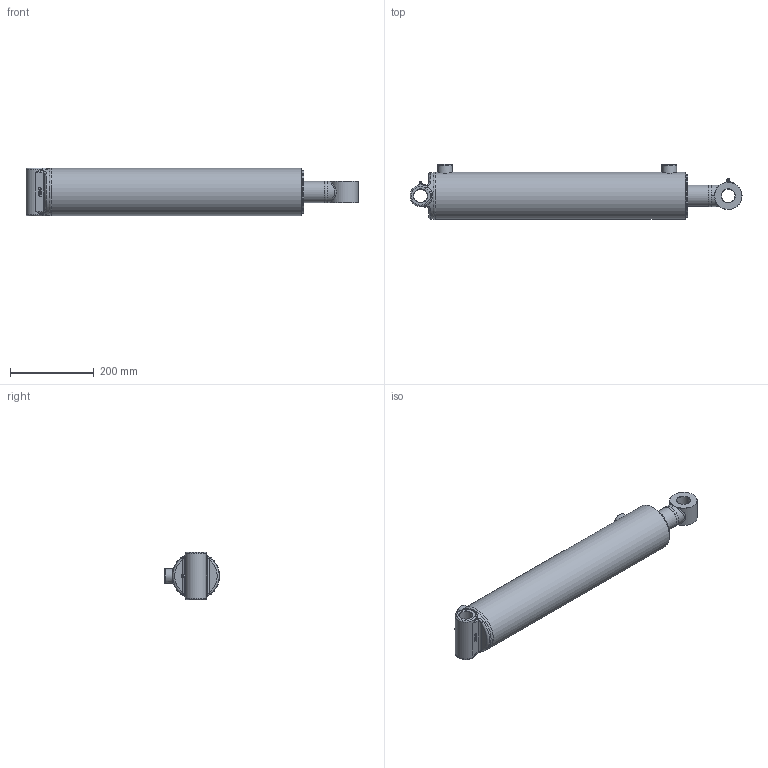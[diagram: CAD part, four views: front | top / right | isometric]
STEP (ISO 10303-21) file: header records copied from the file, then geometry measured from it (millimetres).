
FILE_DESCRIPTION(/* description */ ('Ø4.00 X 20.00 DA'),/* implementation_level */ '2;1');
FILE_NAME(/* name */ 'D:\Temp\1EC646C85C0AA06\y23t31ff.05b\Temp\wyosfgb5..stp',/* time_stamp */ '2020-09-18T15:54:27+00:00',/* author */ (''),/* organization */ ('PRINCE MANUFACTURING'),/* preprocessor_version */ 'ST-DEVELOPER v18.1',/* originating_system */ 'Autodesk Inventor 2021',/* authorisation */ '');
FILE_SCHEMA (('AUTOMOTIVE_DESIGN { 1 0 10303 214 3 1 1 }'));
Length unit declared in the file: inch
Products named in the file (21): PC4020020A00-290XTXS; 0619-XTSG00-200; 0519-T-23620; 161900225; 200015706; 06Weld1_C360; 0719-P-125; 220000212; 0819-G-200; 230025106; 230025006; 240000026; 240061342; 240000342; 0211-AXS40-290X; 0111A-JAW4-25937; 210600511; 02Weld_C360; 240020009; 250014200; 270010020
Assembly tree (22 placements, depth 3):
  PC4020020A00-290XTXS
    0619-XTSG00-200
      0519-T-23620
      161900225
      200015706  x2
      06Weld1_C360
    0719-P-125
    220000212
    0819-G-200
    230025106
    230025006
    240000026
    240061342
    240000342
    0211-AXS40-290X
      0111A-JAW4-25937
      210600511
      02Weld_C360
    240020009
    250014200
    270010020  x2
Bounding box: 794.67 x 132.19 x 114.3 mm (x, y, z)
Volume: 3335989.8 mm3; surface area: 738723.7 mm2
Topology: 26 solids, 26 shells, 499 faces, 1415 edges, 978 vertices
Faces by surface type: plane 139, bspline 126, torus 90, cylinder 80, cone 62, sphere 2
Full cylindrical faces by diameter (mm): 1.524 x2, 5.359 x2, 6.35 x2, 12.7 x2, 20.269 x2, 29.464 x1, 31.699 x1, 31.826 x1, 32.131 x2, 34.315 x1, 34.925 x2, 35.052 x2, 50.8 x1, 50.876 x2, 51.994 x2, 52.832 x1, 53.188 x1, 57.963 x1, 59.157 x1, 60.35 x1, 61.976 x2, 63.5 x2, 73.152 x1, 82.55 x1, 92.177 x2, 92.913 x2, 96.52 x1, 98.031 x2, 98.273 x4, 100.986 x2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
Entity records: 32925 total; most frequent: CARTESIAN_POINT 19556, ORIENTED_EDGE 2656, DIRECTION 2459, EDGE_CURVE 1328, AXIS2_PLACEMENT_3D 1059, VERTEX_POINT 925, CIRCLE 657, EDGE_LOOP 539
